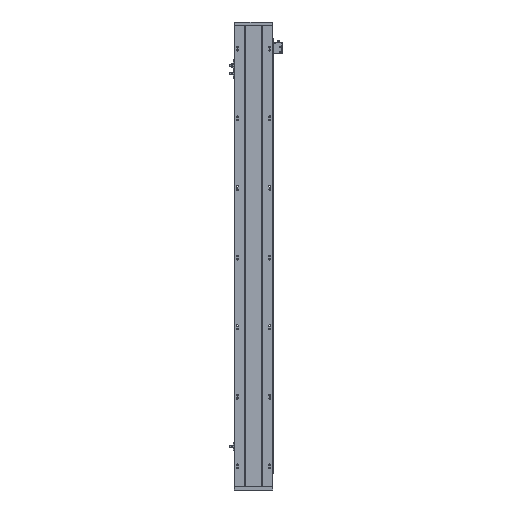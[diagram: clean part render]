
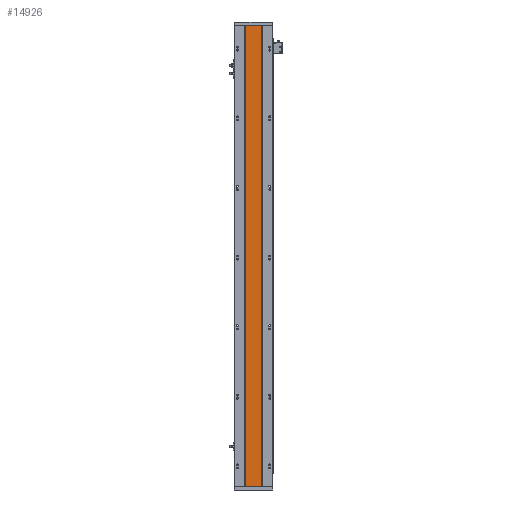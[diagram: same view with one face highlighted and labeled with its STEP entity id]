
A CAD part, front view. The second image highlights one B-rep face of the part: STEP entity #14926.
In plain terms, the highlighted planar face has unit normal (0, -1, 0).
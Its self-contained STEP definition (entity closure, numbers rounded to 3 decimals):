
#294 = VECTOR ( 'NONE', #16024, 1000. ) ;
#1174 = DIRECTION ( 'NONE',  ( 1., 0., 0. ) ) ;
#2424 = CARTESIAN_POINT ( 'NONE',  ( 0., 115.96, 1432. ) ) ;
#2455 = ORIENTED_EDGE ( 'NONE', *, *, #14090, .T. ) ;
#2512 = LINE ( 'NONE', #2424, #6197 ) ;
#2996 = CARTESIAN_POINT ( 'NONE',  ( 183.063, 115.96, 1432. ) ) ;
#3238 = CARTESIAN_POINT ( 'NONE',  ( 0., 115.96, 0. ) ) ;
#4258 = LINE ( 'NONE', #3238, #21658 ) ;
#4297 = CARTESIAN_POINT ( 'NONE',  ( 0., 115.96, 1432. ) ) ;
#4512 = VERTEX_POINT ( 'NONE', #18936 ) ;
#6197 = VECTOR ( 'NONE', #22143, 1000. ) ;
#7824 = VERTEX_POINT ( 'NONE', #2996 ) ;
#8072 = VERTEX_POINT ( 'NONE', #16632 ) ;
#8591 = AXIS2_PLACEMENT_3D ( 'NONE', #4297, #27704, #21218 ) ;
#9699 = EDGE_LOOP ( 'NONE', ( #2455, #26478, #23061, #22245 ) ) ;
#10771 = CARTESIAN_POINT ( 'NONE',  ( 133.07, 115.96, 1432. ) ) ;
#12657 = LINE ( 'NONE', #18171, #294 ) ;
#12849 = PLANE ( 'NONE',  #8591 ) ;
#14090 = EDGE_CURVE ( 'NONE', #4512, #8072, #4258, .T. ) ;
#14926 = ADVANCED_FACE ( 'NONE', ( #24273 ), #12849, .F. ) ;
#15199 = LINE ( 'NONE', #20417, #26380 ) ;
#15237 = EDGE_CURVE ( 'NONE', #21851, #7824, #2512, .T. ) ;
#16024 = DIRECTION ( 'NONE',  ( 0., 0., -1. ) ) ;
#16632 = CARTESIAN_POINT ( 'NONE',  ( 183.063, 115.96, 0. ) ) ;
#17774 = EDGE_CURVE ( 'NONE', #7824, #8072, #12657, .T. ) ;
#18171 = CARTESIAN_POINT ( 'NONE',  ( 183.063, 115.96, 1432. ) ) ;
#18936 = CARTESIAN_POINT ( 'NONE',  ( 133.07, 115.96, 0. ) ) ;
#20417 = CARTESIAN_POINT ( 'NONE',  ( 133.07, 115.96, 1432. ) ) ;
#20795 = EDGE_CURVE ( 'NONE', #21851, #4512, #15199, .T. ) ;
#21218 = DIRECTION ( 'NONE',  ( -1., 0., 0. ) ) ;
#21658 = VECTOR ( 'NONE', #1174, 1000. ) ;
#21851 = VERTEX_POINT ( 'NONE', #10771 ) ;
#22143 = DIRECTION ( 'NONE',  ( 1., 0., 0. ) ) ;
#22245 = ORIENTED_EDGE ( 'NONE', *, *, #20795, .T. ) ;
#23061 = ORIENTED_EDGE ( 'NONE', *, *, #15237, .F. ) ;
#24273 = FACE_OUTER_BOUND ( 'NONE', #9699, .T. ) ;
#24732 = DIRECTION ( 'NONE',  ( 0., 0., -1. ) ) ;
#26380 = VECTOR ( 'NONE', #24732, 1000. ) ;
#26478 = ORIENTED_EDGE ( 'NONE', *, *, #17774, .F. ) ;
#27704 = DIRECTION ( 'NONE',  ( 0., 1., 0. ) ) ;
